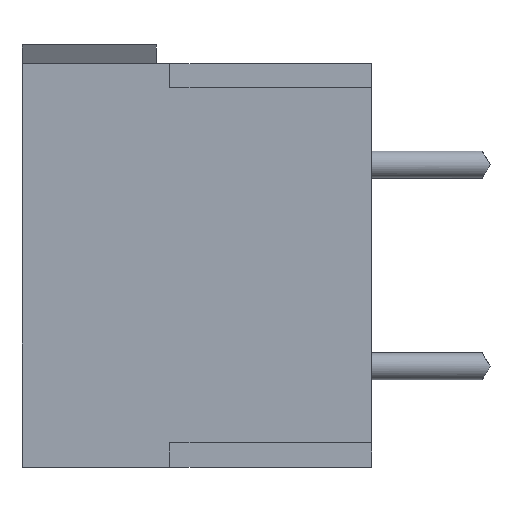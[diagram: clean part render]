
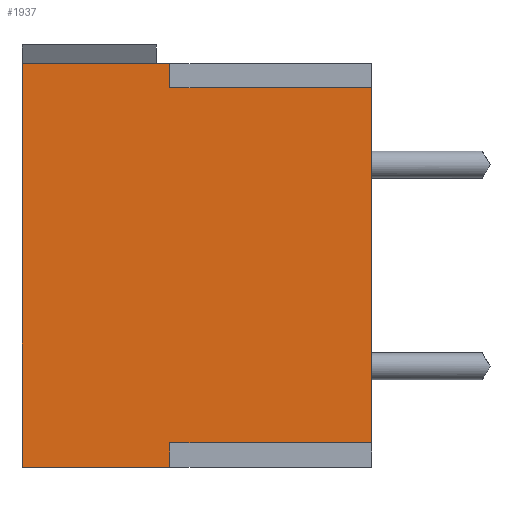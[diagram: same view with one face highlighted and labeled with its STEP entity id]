
A CAD part, left-side view. The second image highlights one B-rep face of the part: STEP entity #1937.
In plain terms, the highlighted planar face has unit normal (-1, 0, 0).
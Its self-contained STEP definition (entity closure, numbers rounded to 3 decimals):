
#1681 = VERTEX_POINT ( 'NONE', #12492 ) ;
#1683 = EDGE_CURVE ( 'NONE', #1681, #1684, #12491, .T. ) ;
#1684 = VERTEX_POINT ( 'NONE', #12487 ) ;
#1725 = EDGE_CURVE ( 'NONE', #1742, #1750, #12644, .T. ) ;
#1741 = EDGE_CURVE ( 'NONE', #1684, #1742, #12701, .T. ) ;
#1742 = VERTEX_POINT ( 'NONE', #12697 ) ;
#1750 = VERTEX_POINT ( 'NONE', #12734 ) ;
#1762 = EDGE_CURVE ( 'NONE', #1780, #1763, #12729, .T. ) ;
#1763 = VERTEX_POINT ( 'NONE', #12725 ) ;
#1773 = EDGE_CURVE ( 'NONE', #1750, #1802, #12757, .T. ) ;
#1779 = EDGE_CURVE ( 'NONE', #1802, #1780, #12794, .T. ) ;
#1780 = VERTEX_POINT ( 'NONE', #12790 ) ;
#1802 = VERTEX_POINT ( 'NONE', #12785 ) ;
#1827 = EDGE_CURVE ( 'NONE', #1763, #1828, #12810, .T. ) ;
#1828 = VERTEX_POINT ( 'NONE', #12806 ) ;
#1851 = ORIENTED_EDGE ( 'NONE', *, *, #1779, .F. ) ;
#1852 = ORIENTED_EDGE ( 'NONE', *, *, #1773, .F. ) ;
#1853 = ORIENTED_EDGE ( 'NONE', *, *, #1725, .F. ) ;
#1854 = ORIENTED_EDGE ( 'NONE', *, *, #1741, .F. ) ;
#1855 = ORIENTED_EDGE ( 'NONE', *, *, #1683, .F. ) ;
#1872 = EDGE_CURVE ( 'NONE', #1828, #1681, #12879, .T. ) ;
#1924 = ORIENTED_EDGE ( 'NONE', *, *, #1872, .F. ) ;
#1937 = ADVANCED_FACE ( 'NONE', ( #12913 ), #12898, .F. ) ;
#1938 = EDGE_LOOP ( 'NONE', ( #1939, #1940, #1851, #1852, #1853, #1854, #1855, #1924 ) ) ;
#1939 = ORIENTED_EDGE ( 'NONE', *, *, #1827, .F. ) ;
#1940 = ORIENTED_EDGE ( 'NONE', *, *, #1762, .F. ) ;
#12487 = CARTESIAN_POINT ( 'NONE',  ( -9.5, 7.5, 0.9 ) ) ;
#12488 = DIRECTION ( 'NONE',  ( 0., -1., 0. ) ) ;
#12489 = VECTOR ( 'NONE', #12488, 1000. ) ;
#12490 = CARTESIAN_POINT ( 'NONE',  ( -9.5, 0., 0.9 ) ) ;
#12491 = LINE ( 'NONE', #12490, #12489 ) ;
#12492 = CARTESIAN_POINT ( 'NONE',  ( -9.5, 13., 0.9 ) ) ;
#12641 = DIRECTION ( 'NONE',  ( 0., -1., 0. ) ) ;
#12642 = VECTOR ( 'NONE', #12641, 1000. ) ;
#12643 = CARTESIAN_POINT ( 'NONE',  ( -9.5, 0., 0. ) ) ;
#12644 = LINE ( 'NONE', #12643, #12642 ) ;
#12697 = CARTESIAN_POINT ( 'NONE',  ( -9.5, 7.5, 0. ) ) ;
#12698 = DIRECTION ( 'NONE',  ( 0., 0., -1. ) ) ;
#12699 = VECTOR ( 'NONE', #12698, 1000. ) ;
#12700 = CARTESIAN_POINT ( 'NONE',  ( -9.5, 7.5, 0.9 ) ) ;
#12701 = LINE ( 'NONE', #12700, #12699 ) ;
#12725 = CARTESIAN_POINT ( 'NONE',  ( -9.5, 7.5, -14.1 ) ) ;
#12726 = DIRECTION ( 'NONE',  ( 0., 0., -1. ) ) ;
#12727 = VECTOR ( 'NONE', #12726, 1000. ) ;
#12728 = CARTESIAN_POINT ( 'NONE',  ( -9.5, 7.5, 0.9 ) ) ;
#12729 = LINE ( 'NONE', #12728, #12727 ) ;
#12734 = CARTESIAN_POINT ( 'NONE',  ( -9.5, 0., 0. ) ) ;
#12754 = DIRECTION ( 'NONE',  ( 0., 0., -1. ) ) ;
#12755 = VECTOR ( 'NONE', #12754, 1000. ) ;
#12756 = CARTESIAN_POINT ( 'NONE',  ( -9.5, 0., 0.9 ) ) ;
#12757 = LINE ( 'NONE', #12756, #12755 ) ;
#12785 = CARTESIAN_POINT ( 'NONE',  ( -9.5, 0., -13.2 ) ) ;
#12790 = CARTESIAN_POINT ( 'NONE',  ( -9.5, 7.5, -13.2 ) ) ;
#12791 = DIRECTION ( 'NONE',  ( 0., 1., 0. ) ) ;
#12792 = VECTOR ( 'NONE', #12791, 1000. ) ;
#12793 = CARTESIAN_POINT ( 'NONE',  ( -9.5, 0., -13.2 ) ) ;
#12794 = LINE ( 'NONE', #12793, #12792 ) ;
#12806 = CARTESIAN_POINT ( 'NONE',  ( -9.5, 13., -14.1 ) ) ;
#12807 = DIRECTION ( 'NONE',  ( 0., 1., 0. ) ) ;
#12808 = VECTOR ( 'NONE', #12807, 1000. ) ;
#12809 = CARTESIAN_POINT ( 'NONE',  ( -9.5, 0., -14.1 ) ) ;
#12810 = LINE ( 'NONE', #12809, #12808 ) ;
#12876 = DIRECTION ( 'NONE',  ( 0., 0., 1. ) ) ;
#12877 = VECTOR ( 'NONE', #12876, 1000. ) ;
#12878 = CARTESIAN_POINT ( 'NONE',  ( -9.5, 13., 0.9 ) ) ;
#12879 = LINE ( 'NONE', #12878, #12877 ) ;
#12897 = AXIS2_PLACEMENT_3D ( 'NONE', #12956, #12955, #12954 ) ;
#12898 = PLANE ( 'NONE',  #12897 ) ;
#12913 = FACE_OUTER_BOUND ( 'NONE', #1938, .T. ) ;
#12954 = DIRECTION ( 'NONE',  ( 0., 1., 0. ) ) ;
#12955 = DIRECTION ( 'NONE',  ( 1., 0., 0. ) ) ;
#12956 = CARTESIAN_POINT ( 'NONE',  ( -9.5, 0., 0.9 ) ) ;
